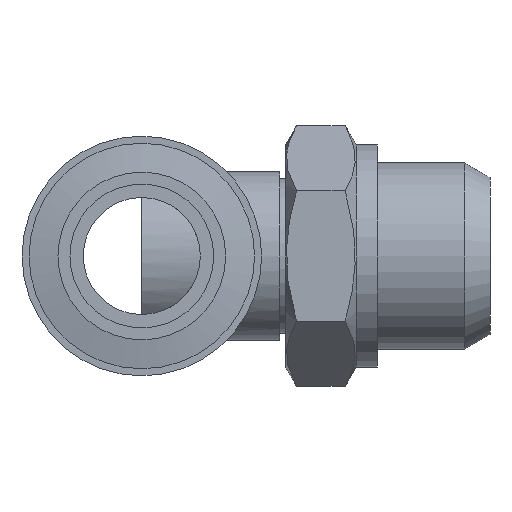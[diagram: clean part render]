
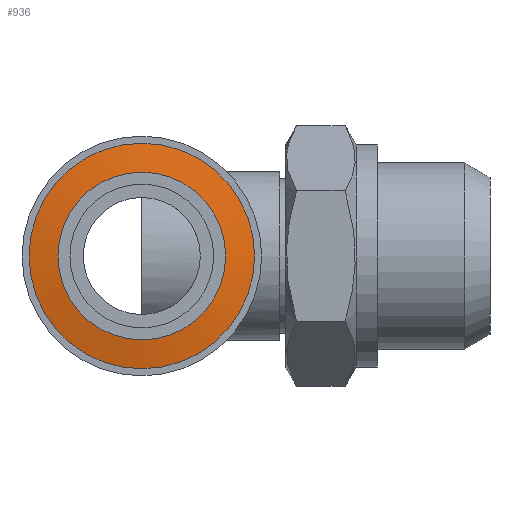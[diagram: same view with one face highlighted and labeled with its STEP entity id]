
A CAD part, front view. The second image highlights one B-rep face of the part: STEP entity #936.
In plain terms, the highlighted conical face has half-angle 80 degrees and reference radius 6.975 mm.
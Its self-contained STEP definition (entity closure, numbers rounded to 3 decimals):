
#902=CARTESIAN_POINT('',(8.,-26.339,0.0));
#903=VERTEX_POINT('',#902);
#904=CARTESIAN_POINT('',(0.,-26.339,0.0));
#905=DIRECTION('',(0.0,-1.0,0.0));
#906=DIRECTION('',(1.0,0.0,0.0));
#907=AXIS2_PLACEMENT_3D('',#904,#905,#906);
#908=CIRCLE('',#907,8.0);
#909=EDGE_CURVE('',#903,#903,#908,.T.);
#917=CARTESIAN_POINT('',(0.,-26.519,0.0));
#918=DIRECTION('',(0.,1.0,0.0));
#919=DIRECTION('',(1.0,0.0,0.0));
#920=AXIS2_PLACEMENT_3D('',#917,#918,#919);
#921=CONICAL_SURFACE('',#920,6.975,80.);
#922=CARTESIAN_POINT('',(5.95,-26.7,0.0));
#923=VERTEX_POINT('',#922);
#924=CARTESIAN_POINT('',(0.,-26.7,0.0));
#925=DIRECTION('',(0.0,-1.0,0.0));
#926=DIRECTION('',(1.0,0.0,0.0));
#927=AXIS2_PLACEMENT_3D('',#924,#925,#926);
#928=CIRCLE('',#927,5.95);
#929=EDGE_CURVE('',#923,#923,#928,.T.);
#930=ORIENTED_EDGE('',*,*,#929,.F.);
#931=EDGE_LOOP('',(#930));
#932=FACE_OUTER_BOUND('',#931,.T.);
#933=ORIENTED_EDGE('',*,*,#909,.T.);
#934=EDGE_LOOP('',(#933));
#935=FACE_BOUND('',#934,.T.);
#936=ADVANCED_FACE('',(#932,#935),#921,.T.);
